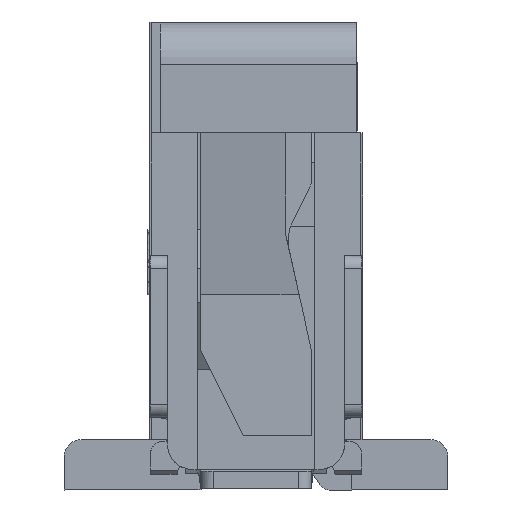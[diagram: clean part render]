
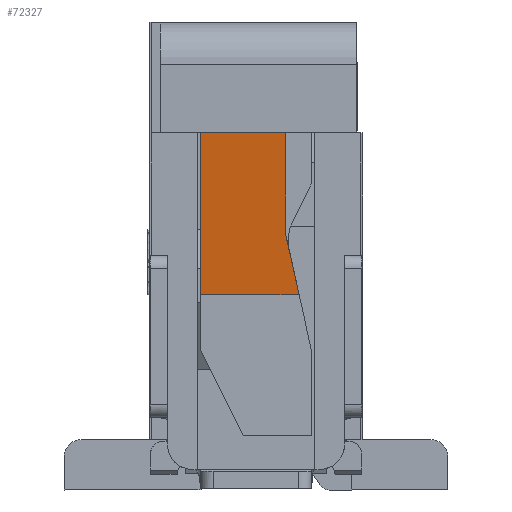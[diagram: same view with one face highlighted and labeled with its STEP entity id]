
A CAD part, left-side view. The second image highlights one B-rep face of the part: STEP entity #72327.
In plain terms, the highlighted planar face has unit normal (-0.99, 0, -0.141).
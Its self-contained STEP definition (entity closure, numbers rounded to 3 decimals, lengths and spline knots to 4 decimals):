
#2801 = LINE ( 'NONE', #8505, #39539 ) ;
#4783 = CARTESIAN_POINT ( 'NONE',  ( -14.98, 1.9, -1.3 ) ) ;
#8047 = CARTESIAN_POINT ( 'NONE',  ( -14.71, 1.9, -3.2 ) ) ;
#8505 = CARTESIAN_POINT ( 'NONE',  ( -14.98, 0.9, -1.3 ) ) ;
#9643 = DIRECTION ( 'NONE',  ( 0.141, 0., -0.99 ) ) ;
#10390 = CARTESIAN_POINT ( 'NONE',  ( -14.71, 0.7444, -3.2 ) ) ;
#10426 = VECTOR ( 'NONE', #63808, 1000. ) ;
#12455 = DIRECTION ( 'NONE',  ( 0.99, 0., 0.141 ) ) ;
#13314 = DIRECTION ( 'NONE',  ( 0., -1., 0. ) ) ;
#14855 = ORIENTED_EDGE ( 'NONE', *, *, #27390, .T. ) ;
#19715 = EDGE_CURVE ( 'NONE', #42262, #30358, #44539, .T. ) ;
#20336 = FACE_OUTER_BOUND ( 'NONE', #52126, .T. ) ;
#27357 = CARTESIAN_POINT ( 'NONE',  ( -14.8095, 0.9, -2.5 ) ) ;
#27390 = EDGE_CURVE ( 'NONE', #36219, #56535, #2801, .T. ) ;
#30218 = CARTESIAN_POINT ( 'NONE',  ( -14.98, 0.9, -1.3 ) ) ;
#30358 = VERTEX_POINT ( 'NONE', #27357 ) ;
#33668 = ORIENTED_EDGE ( 'NONE', *, *, #19715, .T. ) ;
#34925 = VECTOR ( 'NONE', #9643, 1000. ) ;
#36219 = VERTEX_POINT ( 'NONE', #60568 ) ;
#39539 = VECTOR ( 'NONE', #75481, 1000. ) ;
#42262 = VERTEX_POINT ( 'NONE', #53085 ) ;
#42411 = VECTOR ( 'NONE', #85660, 1000. ) ;
#43775 = LINE ( 'NONE', #30218, #34925 ) ;
#44539 = LINE ( 'NONE', #10390, #10426 ) ;
#44921 = AXIS2_PLACEMENT_3D ( 'NONE', #73315, #12455, #13314 ) ;
#45485 = DIRECTION ( 'NONE',  ( -0.141, 0., 0.99 ) ) ;
#50153 = EDGE_CURVE ( 'NONE', #36219, #30358, #43775, .T. ) ;
#52126 = EDGE_LOOP ( 'NONE', ( #14855, #82934, #57587, #33668, #52630 ) ) ;
#52630 = ORIENTED_EDGE ( 'NONE', *, *, #50153, .F. ) ;
#53085 = CARTESIAN_POINT ( 'NONE',  ( -14.71, 0.7444, -3.2 ) ) ;
#54801 = VECTOR ( 'NONE', #45485, 1000. ) ;
#56535 = VERTEX_POINT ( 'NONE', #4783 ) ;
#57587 = ORIENTED_EDGE ( 'NONE', *, *, #84494, .F. ) ;
#58980 = CARTESIAN_POINT ( 'NONE',  ( -14.71, 0.7444, -3.2 ) ) ;
#60568 = CARTESIAN_POINT ( 'NONE',  ( -14.98, 0.9, -1.3 ) ) ;
#61365 = VERTEX_POINT ( 'NONE', #8047 ) ;
#63808 = DIRECTION ( 'NONE',  ( -0.137, 0.215, 0.967 ) ) ;
#64326 = CARTESIAN_POINT ( 'NONE',  ( -14.71, 1.9, -3.2 ) ) ;
#71761 = LINE ( 'NONE', #64326, #54801 ) ;
#72021 = PLANE ( 'NONE',  #44921 ) ;
#72327 = ADVANCED_FACE ( 'NONE', ( #20336 ), #72021, .F. ) ;
#73315 = CARTESIAN_POINT ( 'NONE',  ( -14.845, 1.3222, -2.25 ) ) ;
#75481 = DIRECTION ( 'NONE',  ( 0., 1., 0. ) ) ;
#75877 = EDGE_CURVE ( 'NONE', #61365, #56535, #71761, .T. ) ;
#79542 = LINE ( 'NONE', #58980, #42411 ) ;
#82934 = ORIENTED_EDGE ( 'NONE', *, *, #75877, .F. ) ;
#84494 = EDGE_CURVE ( 'NONE', #42262, #61365, #79542, .T. ) ;
#85660 = DIRECTION ( 'NONE',  ( 0., 1., 0. ) ) ;
